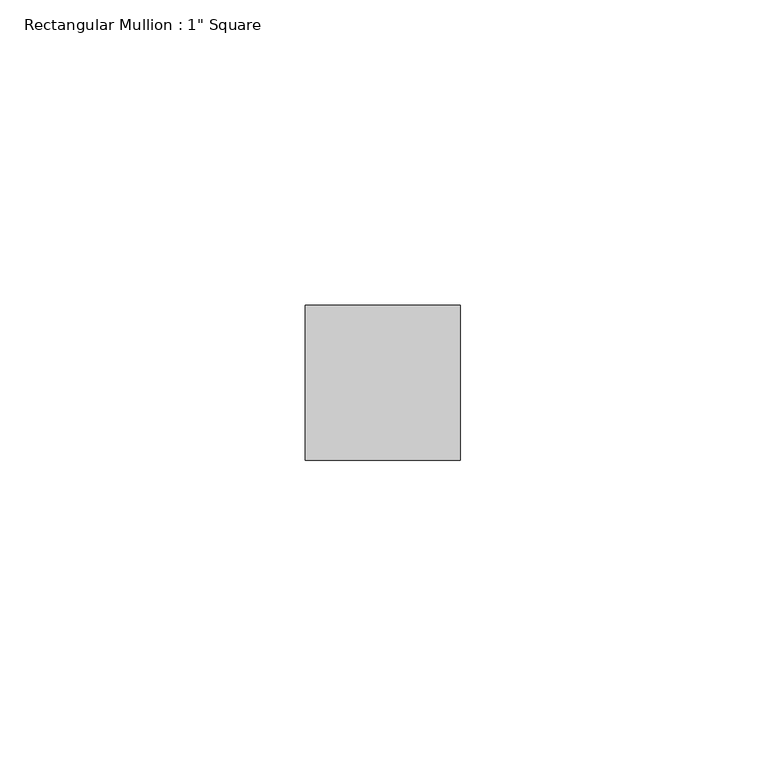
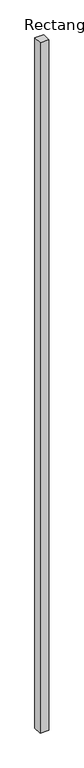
"""IFC4 building model written with IfcOpenShell, lengths in millimetres: member geometry."""

from ifc_helpers import new_model, si_unit, frame, origin, place, context, project, spatial, polyline, outline, extrude, source, transform, mapped, element, save


def member_3542fcca(model_context):
    return source(origin(), model_context, "Body", "SweptSolid", [
        extrude(outline(polyline([(12.7, 12.7), (12.7, -12.7), (-12.7, -12.7), (-12.7, 12.7), (12.7, 12.7)])), frame((0.0, 0.0, -2099.927282), z_axis=(0.0, 0.0, 1.0), x_axis=(1.0, 0.0, 0.0)), (0.0, 0.0, 1.0), 2099.927282),
    ])


if __name__ == "__main__":
    model = new_model("IFC4")
    model_context = context("Model", 3, world=origin())
    ifc_project = project(units=[si_unit("LENGTHUNIT", "METRE", prefix="MILLI")], contexts=[model_context])
    site = spatial("IfcSite", under=ifc_project)
    building = spatial("IfcBuilding", under=site)
    placement = place(None, origin())
    member_shape = member_3542fcca(model_context)
    element("IfcMember", 1, ObjectType="Rectangular Mullion : 1\" Square", at=placement, inside=building, context=model_context, shape_type="MappedRepresentation", body=[
        mapped(member_shape, transform((0.0, 0.0, 0.0), x_axis=(1.0, 0.0, 0.0), y_axis=(0.0, 1.0, 0.0), z_axis=(0.0, 0.0, 1.0))),
    ])
    save(model, "model.ifc")
